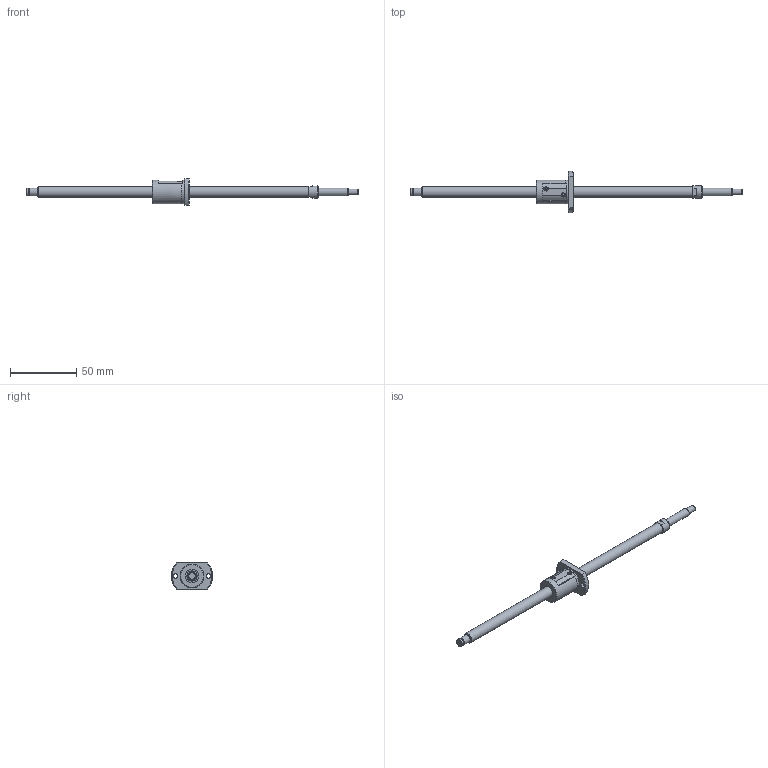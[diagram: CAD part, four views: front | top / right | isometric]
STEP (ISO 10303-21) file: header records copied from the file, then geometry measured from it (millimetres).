
FILE_DESCRIPTION(/* description */ ('STEP AP214'),/* implementation_level */ '2;1');
FILE_NAME(/* name */ 'SG0805-200R250C5B0X(86)',/* time_stamp */ '2026-07-21T16:51:59+02:00',/* author */ ('License CC BY-ND 4.0'),/* organization */ ('CADENAS'),/* preprocessor_version */ 'ST-DEVELOPER v20',/* originating_system */ 'PARTsolutions',/* authorisation */ ' ');
FILE_SCHEMA (('AUTOMOTIVE_DESIGN {1 0 10303 214 3 1 1}'));
Length unit declared in the file: millimetre
Products named in the file (3): SG0805-200R250C5B0X(86); SG0805-200R250C5B_shaft; SG0805 C5_nut
Assembly tree (2 placements, depth 2):
  SG0805-200R250C5B0X(86)
    SG0805-200R250C5B_shaft
    SG0805 C5_nut
Bounding box: 250 x 30.91 x 20 mm (x, y, z)
Volume: 18420.1 mm3; surface area: 9684.8 mm2
Topology: 2 solids, 2 shells, 79 faces, 188 edges, 123 vertices
Faces by surface type: plane 38, cylinder 26, cone 14, torus 1
Full cylindrical faces by diameter (mm): 3.4 x2, 4.5 x1, 5.7 x1, 6 x3, 8 x2, 9.5 x1, 10 x2, 17.7 x1, 18 x1
Entity records: 2197 total; most frequent: CARTESIAN_POINT 408, DIRECTION 374, ORIENTED_EDGE 306, AXIS2_PLACEMENT_3D 157, EDGE_CURVE 153, EDGE_LOOP 120, FACE_BOUND 120, VERTEX_POINT 113
